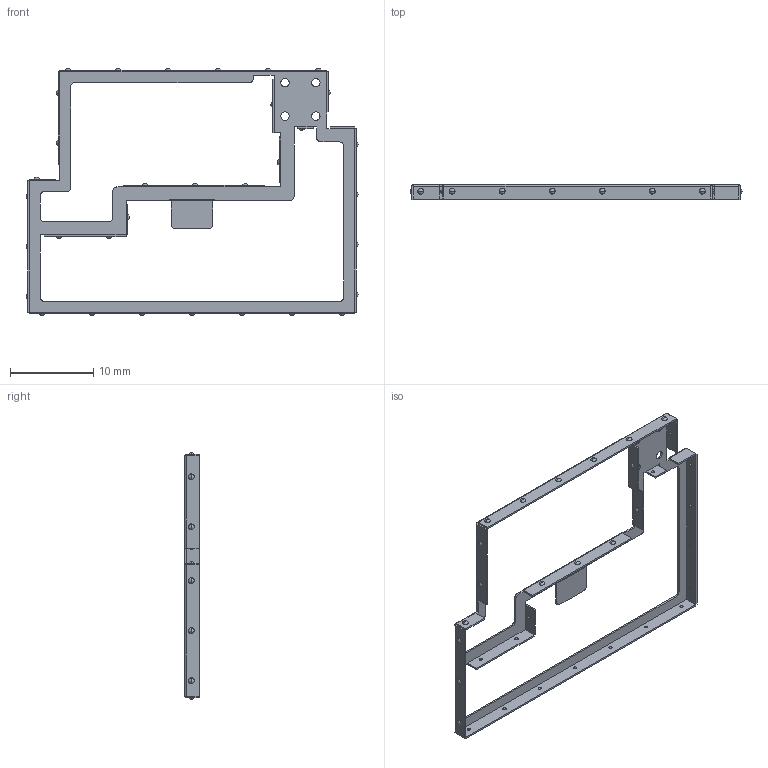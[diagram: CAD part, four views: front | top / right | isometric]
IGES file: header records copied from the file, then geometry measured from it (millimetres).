
Start section:  PTC IGES file: gtc01-a-mcs01-rf-frame_prt.igs
Global section: file name: gtc01-a-mcs01-rf-frame_prt.igs; native system: Pro/ENGINEER by Parametric Technology Corporation; preprocessor: 2006170; author: GRA; organization: Unknown; date: 20080630.105144; units: millimetre
Bounding box: 39.8 x 1.75 x 29.6 mm (x, y, z)
Surface area: 1238.5 mm2 (no closed solid volume)
Topology: 0 solids, 0 shells, 308 faces, 1476 edges, 1344 vertices
Faces by surface type: revolution 168, bspline 140
